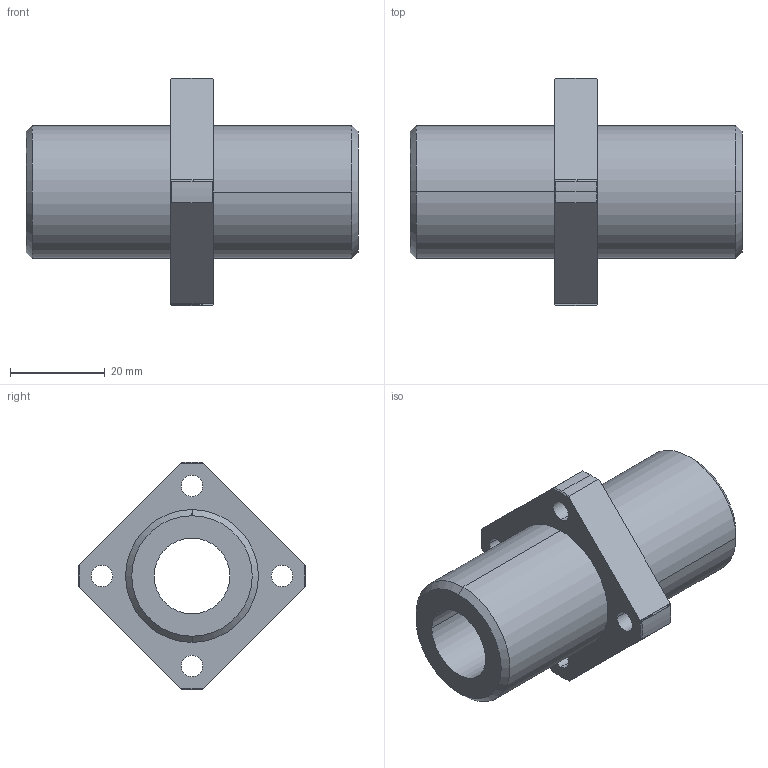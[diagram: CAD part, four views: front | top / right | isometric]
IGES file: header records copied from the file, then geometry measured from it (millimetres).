
Start section: 3D InterOp IGES (Version 21 0 1), Spatial Corp. Copyright (c) 1999-2007.
Global section: file name: CFPJ16.igs; native system: Spatial Corp.; preprocessor: 3D InterOp GENERIC/IGES 3.0; author: Noname; organization: Noname; date: 20220324.130125; units: millimetre
Bounding box: 70 x 47.98 x 48 mm (x, y, z)
Surface area: 12845.7 mm2 (no closed solid volume)
Topology: 0 solids, 0 shells, 53 faces, 264 edges, 264 vertices
Faces by surface type: revolution 41, extrusion 12
